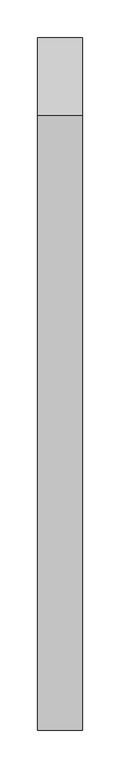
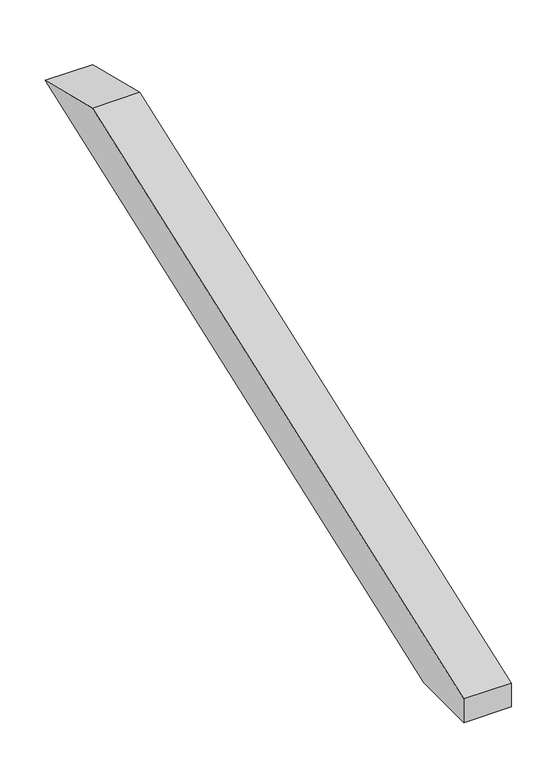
"""IFC4 building model written with IfcOpenShell, lengths in millimetres: proxy geometry, Modelos genéricos 76 : Modelos genéricos 14."""

from ifc_helpers import new_model, si_unit, frame, origin, place, context, project, spatial, polyline, outline, extrude, source, transform, mapped, element, save


def generic_models_94123360(model_context):
    return source(origin(), model_context, "Body", "SweptSolid", [
        extrude(outline(polyline([(4380.24101, 3463.5158927), (3546.3379485, 3160.0), (3458.6238165, 3160.0), (3458.6238165, 3191.9253332), (4276.1307053, 3489.473507), (4380.24101, 3463.5158927)])), frame((-1726.5527533, 0.0, 0.0), z_axis=(1.0, 0.0, 0.0), x_axis=(0.0, 1.0, 0.0)), (0.0, 0.0, 1.0), 60.0),
    ])


if __name__ == "__main__":
    model = new_model("IFC4")
    model_context = context("Model", 3, world=origin())
    ifc_project = project(units=[si_unit("LENGTHUNIT", "METRE", prefix="MILLI")], contexts=[model_context])
    site = spatial("IfcSite", under=ifc_project)
    building = spatial("IfcBuilding", under=site)
    placement = place(None, origin())
    generic_models_shape = generic_models_94123360(model_context)
    element("IfcBuildingElementProxy", 1, Name="Modelos genéricos 76 : Modelos genéricos 14", ObjectType="Modelos genéricos 76 : Modelos genéricos 14", at=placement, inside=building, context=model_context, shape_type="MappedRepresentation", body=[
        mapped(generic_models_shape, transform((0.0, 0.0, 0.0), x_axis=(1.0, 0.0, 0.0), y_axis=(0.0, 1.0, 0.0), z_axis=(0.0, 0.0, 1.0))),
    ])
    save(model, "model.ifc")
